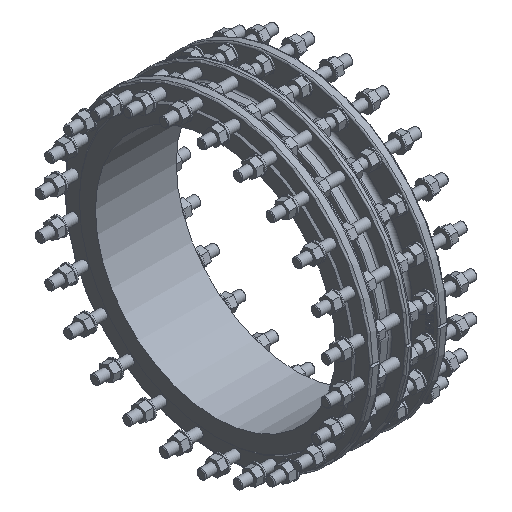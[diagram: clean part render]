
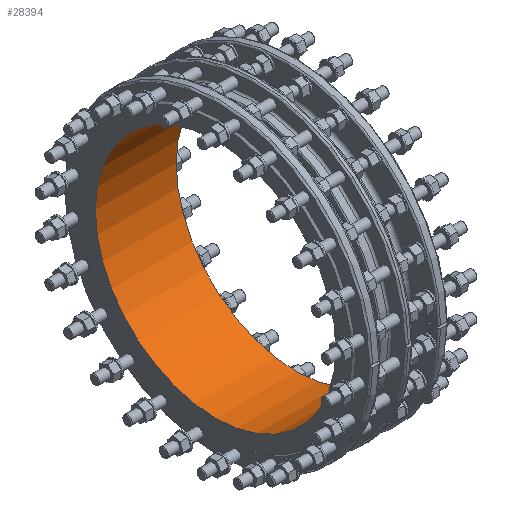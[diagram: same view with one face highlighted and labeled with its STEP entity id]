
A CAD part, isometric view. The second image highlights one B-rep face of the part: STEP entity #28394.
In plain terms, the highlighted cylindrical face has radius 350 mm (diameter 700 mm), a full revolution.
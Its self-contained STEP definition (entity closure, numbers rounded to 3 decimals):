
#937 = AXIS2_PLACEMENT_3D ( 'NONE', #19284, #32205, #15947 ) ;
#3833 = ORIENTED_EDGE ( 'NONE', *, *, #9272, .F. ) ;
#4702 = AXIS2_PLACEMENT_3D ( 'NONE', #24280, #14261, #40100 ) ;
#5836 = CARTESIAN_POINT ( 'NONE',  ( 219., 0., 350. ) ) ;
#6579 = CYLINDRICAL_SURFACE ( 'NONE', #937, 350. ) ;
#8293 = EDGE_CURVE ( 'NONE', #39237, #39237, #13385, .T. ) ;
#9272 = EDGE_CURVE ( 'NONE', #23408, #23408, #36003, .T. ) ;
#13379 = DIRECTION ( 'NONE',  ( 0., 0., -1. ) ) ;
#13385 = CIRCLE ( 'NONE', #26724, 350. ) ;
#14261 = DIRECTION ( 'NONE',  ( -1., 0., 0. ) ) ;
#15747 = FACE_OUTER_BOUND ( 'NONE', #33187, .T. ) ;
#15947 = DIRECTION ( 'NONE',  ( 0., 0., 1. ) ) ;
#16513 = DIRECTION ( 'NONE',  ( 1., 0., 0. ) ) ;
#19284 = CARTESIAN_POINT ( 'NONE',  ( 0., 0., 0. ) ) ;
#23408 = VERTEX_POINT ( 'NONE', #5836 ) ;
#23867 = ORIENTED_EDGE ( 'NONE', *, *, #8293, .F. ) ;
#24280 = CARTESIAN_POINT ( 'NONE',  ( 219., 0., 0. ) ) ;
#26724 = AXIS2_PLACEMENT_3D ( 'NONE', #32353, #16513, #13379 ) ;
#28394 = ADVANCED_FACE ( 'NONE', ( #15747, #41171 ), #6579, .F. ) ;
#32205 = DIRECTION ( 'NONE',  ( -1., 0., 0. ) ) ;
#32353 = CARTESIAN_POINT ( 'NONE',  ( -16., 0., 0. ) ) ;
#33187 = EDGE_LOOP ( 'NONE', ( #3833 ) ) ;
#34792 = EDGE_LOOP ( 'NONE', ( #23867 ) ) ;
#36003 = CIRCLE ( 'NONE', #4702, 350. ) ;
#37106 = CARTESIAN_POINT ( 'NONE',  ( -16., 0., -350. ) ) ;
#39237 = VERTEX_POINT ( 'NONE', #37106 ) ;
#40100 = DIRECTION ( 'NONE',  ( 0., 0., 1. ) ) ;
#41171 = FACE_OUTER_BOUND ( 'NONE', #34792, .T. ) ;
